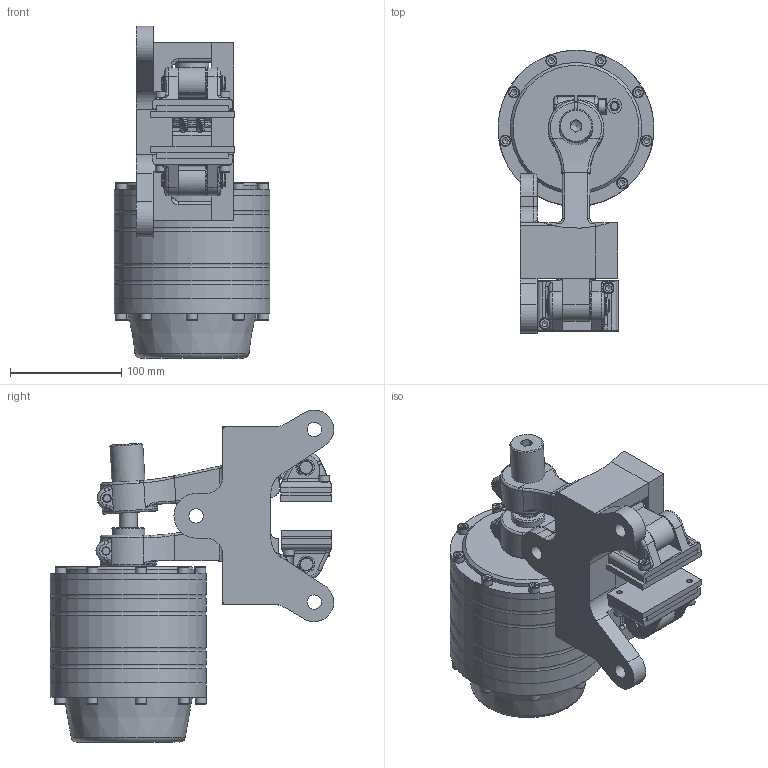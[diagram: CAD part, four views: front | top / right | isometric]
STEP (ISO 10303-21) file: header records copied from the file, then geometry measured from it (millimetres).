
FILE_DESCRIPTION(/* description */ ('','CAx-IF Rec.Pracs.---Representation and Presentation of Product Manufacturing Information (PMI)---4.0---2014-10-13'),/* implementation_level */ '2;1');
FILE_NAME(/* name */ 'X:\INVENTOR\DISEGNI\19_Pinze\STEP x Sito\PNEUM-DUO\19_56_023_04 PPF-PN023_25,4.stp',/* time_stamp */ '2018-02-16T11:36:56+01:00',/* author */ ('stefano'),/* organization */ (''),/* preprocessor_version */ 'ST-DEVELOPER v17',/* originating_system */ 'Autodesk Inventor 2018',/* authorisation */ '');
FILE_SCHEMA (('AP242_MANAGED_MODEL_BASED_3D_ENGINEERING_MIM_LF { 1 0 10303 442 1 1 4 }'));
Length unit declared in the file: millimetre
Products named in the file (1): 19_56_023_04 PPF-PN023_25,4_Substitute_1
Bounding box: 140 x 254.49 x 298 mm (x, y, z)
Volume: 2416934.4 mm3; surface area: 405656.8 mm2
Topology: 5 solids, 5 shells, 1224 faces, 3420 edges, 2287 vertices
Faces by surface type: plane 645, cylinder 326, cone 97, torus 95, bspline 60, sphere 1
Full cylindrical faces by diameter (mm): 1.7 x14, 3 x4, 4.134 x3, 4.917 x8, 5 x1, 6 x7, 6.917 x1, 7.25 x6, 8 x3, 8.5 x2, 10 x30, 10.5 x3, 11.5 x4, 12 x12, 12.5 x1, 13 x8, 13.3 x6, 13.5 x2, 14 x12, 14.95 x2, 16 x7, 16.5 x2, 19 x1, 19.5 x8, 22 x2, 22.6 x1, 24 x2, 25 x1, 26.5 x2, 28 x1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
Entity records: 46233 total; most frequent: CARTESIAN_POINT 13229, DIRECTION 6753, ORIENTED_EDGE 6750, EDGE_CURVE 3375, AXIS2_PLACEMENT_3D 2616, VERTEX_POINT 2287, LINE 1521, VECTOR 1521
